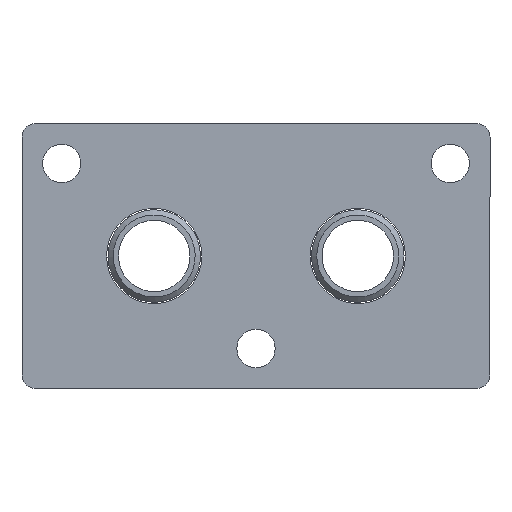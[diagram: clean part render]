
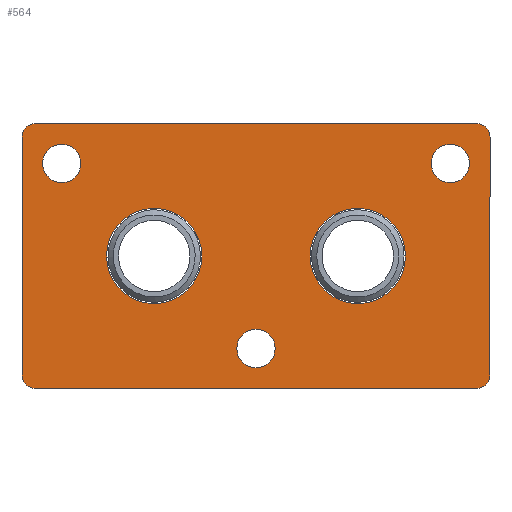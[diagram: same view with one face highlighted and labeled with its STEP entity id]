
A CAD part, front view. The second image highlights one B-rep face of the part: STEP entity #564.
In plain terms, the highlighted planar face has unit normal (0, -1, 0).
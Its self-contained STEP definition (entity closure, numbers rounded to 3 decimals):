
#112=CARTESIAN_POINT('',(59.,0.0,0.));
#113=VERTEX_POINT('',#112);
#114=CARTESIAN_POINT('',(77.,0.0,0.));
#115=DIRECTION('',(0.0,1.0,0.0));
#116=DIRECTION('',(1.0,0.0,0.0));
#117=AXIS2_PLACEMENT_3D('',#114,#115,#116);
#118=CIRCLE('',#117,18.0);
#119=EDGE_CURVE('',#113,#113,#118,.T.);
#140=CARTESIAN_POINT('',(-18.,0.0,0.));
#141=VERTEX_POINT('',#140);
#142=CARTESIAN_POINT('',(0.,0.0,0.));
#143=DIRECTION('',(0.0,1.0,0.0));
#144=DIRECTION('',(1.0,0.0,0.0));
#145=AXIS2_PLACEMENT_3D('',#142,#143,#144);
#146=CIRCLE('',#145,18.0);
#147=EDGE_CURVE('',#141,#141,#146,.T.);
#168=CARTESIAN_POINT('',(104.75,0.0,35.));
#169=VERTEX_POINT('',#168);
#170=CARTESIAN_POINT('',(112.,0.0,35.));
#171=DIRECTION('',(0.0,1.0,0.0));
#172=DIRECTION('',(1.0,0.0,0.0));
#173=AXIS2_PLACEMENT_3D('',#170,#171,#172);
#174=CIRCLE('',#173,7.25);
#175=EDGE_CURVE('',#169,#169,#174,.T.);
#196=CARTESIAN_POINT('',(31.25,0.0,-35.));
#197=VERTEX_POINT('',#196);
#198=CARTESIAN_POINT('',(38.5,0.0,-35.));
#199=DIRECTION('',(0.0,1.0,0.0));
#200=DIRECTION('',(1.0,0.0,0.0));
#201=AXIS2_PLACEMENT_3D('',#198,#199,#200);
#202=CIRCLE('',#201,7.25);
#203=EDGE_CURVE('',#197,#197,#202,.T.);
#224=CARTESIAN_POINT('',(-42.25,0.0,35.));
#225=VERTEX_POINT('',#224);
#226=CARTESIAN_POINT('',(-35.,0.0,35.));
#227=DIRECTION('',(0.0,1.0,0.0));
#228=DIRECTION('',(1.0,0.0,0.0));
#229=AXIS2_PLACEMENT_3D('',#226,#227,#228);
#230=CIRCLE('',#229,7.25);
#231=EDGE_CURVE('',#225,#225,#230,.T.);
#263=CARTESIAN_POINT('',(-45.,0.0,-50.));
#264=VERTEX_POINT('',#263);
#271=CARTESIAN_POINT('',(-50.,0.0,-45.));
#272=VERTEX_POINT('',#271);
#273=CARTESIAN_POINT('',(-45.,0.0,-45.));
#274=DIRECTION('',(0.0,1.,0.0));
#275=DIRECTION('',(-0.707,0.0,-0.707));
#276=AXIS2_PLACEMENT_3D('',#273,#274,#275);
#277=CIRCLE('',#276,5.);
#278=EDGE_CURVE('',#264,#272,#277,.T.);
#303=CARTESIAN_POINT('',(122.,0.0,-50.));
#304=VERTEX_POINT('',#303);
#311=CARTESIAN_POINT('',(122.,0.0,-50.));
#312=DIRECTION('',(-1.0,0.0,0.0));
#313=VECTOR('',#312,167.0);
#314=LINE('',#311,#313);
#315=EDGE_CURVE('',#304,#264,#314,.T.);
#400=CARTESIAN_POINT('',(127.,0.0,-45.));
#401=VERTEX_POINT('',#400);
#408=CARTESIAN_POINT('',(122.,0.0,-45.));
#409=DIRECTION('',(0.0,1.,0.0));
#410=DIRECTION('',(0.707,0.0,-0.707));
#411=AXIS2_PLACEMENT_3D('',#408,#409,#410);
#412=CIRCLE('',#411,5.);
#413=EDGE_CURVE('',#401,#304,#412,.T.);
#426=CARTESIAN_POINT('',(127.,0.0,45.));
#427=VERTEX_POINT('',#426);
#434=CARTESIAN_POINT('',(127.,0.0,45.));
#435=DIRECTION('',(0.0,0.0,-1.0));
#436=VECTOR('',#435,90.0);
#437=LINE('',#434,#436);
#438=EDGE_CURVE('',#427,#401,#437,.T.);
#449=CARTESIAN_POINT('',(122.,0.0,50.));
#450=VERTEX_POINT('',#449);
#457=CARTESIAN_POINT('',(122.,0.0,45.));
#458=DIRECTION('',(0.0,1.0,0.0));
#459=DIRECTION('',(0.707,0.0,0.707));
#460=AXIS2_PLACEMENT_3D('',#457,#458,#459);
#461=CIRCLE('',#460,5.0);
#462=EDGE_CURVE('',#450,#427,#461,.T.);
#475=CARTESIAN_POINT('',(-45.,0.0,50.));
#476=VERTEX_POINT('',#475);
#483=CARTESIAN_POINT('',(-45.,0.0,50.));
#484=DIRECTION('',(1.0,0.0,0.0));
#485=VECTOR('',#484,167.0);
#486=LINE('',#483,#485);
#487=EDGE_CURVE('',#476,#450,#486,.T.);
#498=CARTESIAN_POINT('',(-50.,0.0,45.));
#499=VERTEX_POINT('',#498);
#506=CARTESIAN_POINT('',(-45.,0.0,45.));
#507=DIRECTION('',(0.0,1.,0.0));
#508=DIRECTION('',(-0.707,0.0,0.707));
#509=AXIS2_PLACEMENT_3D('',#506,#507,#508);
#510=CIRCLE('',#509,5.);
#511=EDGE_CURVE('',#499,#476,#510,.T.);
#523=CARTESIAN_POINT('',(-50.,0.0,-45.));
#524=DIRECTION('',(0.0,0.0,1.0));
#525=VECTOR('',#524,90.);
#526=LINE('',#523,#525);
#527=EDGE_CURVE('',#272,#499,#526,.T.);
#534=CARTESIAN_POINT('',(38.5,0.0,0.));
#535=DIRECTION('',(0.0,1.0,0.0));
#536=DIRECTION('',(0.0,0.0,1.0));
#537=AXIS2_PLACEMENT_3D('',#534,#535,#536);
#538=PLANE('',#537);
#539=ORIENTED_EDGE('',*,*,#278,.F.);
#540=ORIENTED_EDGE('',*,*,#315,.F.);
#541=ORIENTED_EDGE('',*,*,#413,.F.);
#542=ORIENTED_EDGE('',*,*,#438,.F.);
#543=ORIENTED_EDGE('',*,*,#462,.F.);
#544=ORIENTED_EDGE('',*,*,#487,.F.);
#545=ORIENTED_EDGE('',*,*,#511,.F.);
#546=ORIENTED_EDGE('',*,*,#527,.F.);
#547=EDGE_LOOP('',(#539,#540,#541,#542,#543,#544,#545,#546));
#548=FACE_OUTER_BOUND('',#547,.T.);
#549=ORIENTED_EDGE('',*,*,#119,.T.);
#550=EDGE_LOOP('',(#549));
#551=FACE_BOUND('',#550,.T.);
#552=ORIENTED_EDGE('',*,*,#147,.T.);
#553=EDGE_LOOP('',(#552));
#554=FACE_BOUND('',#553,.T.);
#555=ORIENTED_EDGE('',*,*,#175,.T.);
#556=EDGE_LOOP('',(#555));
#557=FACE_BOUND('',#556,.T.);
#558=ORIENTED_EDGE('',*,*,#203,.T.);
#559=EDGE_LOOP('',(#558));
#560=FACE_BOUND('',#559,.T.);
#561=ORIENTED_EDGE('',*,*,#231,.T.);
#562=EDGE_LOOP('',(#561));
#563=FACE_BOUND('',#562,.T.);
#564=ADVANCED_FACE('',(#548,#551,#554,#557,#560,#563),#538,.F.);
